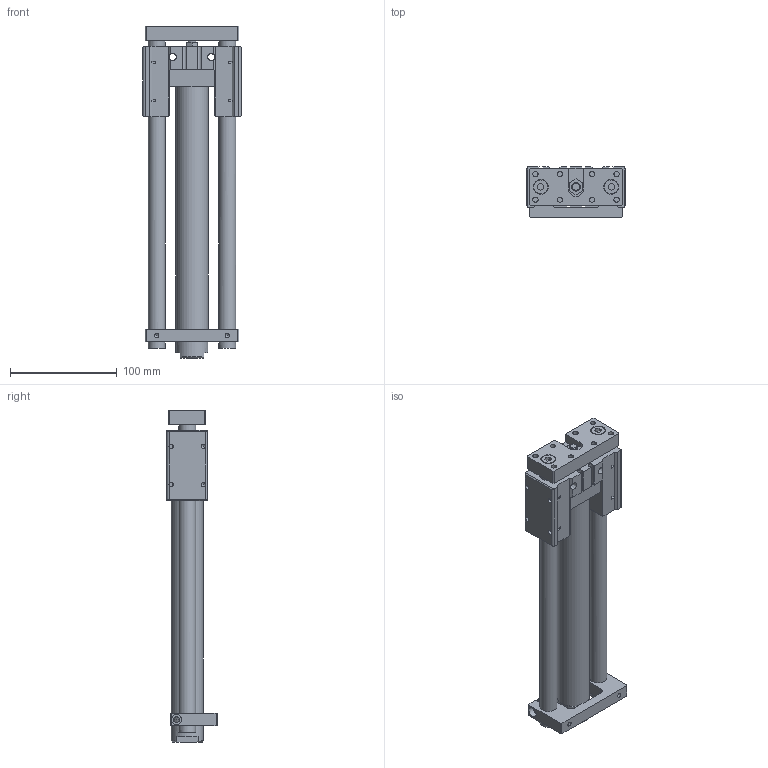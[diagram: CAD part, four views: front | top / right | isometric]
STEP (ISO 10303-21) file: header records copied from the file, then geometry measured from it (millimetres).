
FILE_DESCRIPTION((''),'2;1');
FILE_NAME('I:\3D電子目錄\氣缸\TMB(U)\TMB(U)\TMB(U)25\TMB(U)25x200.stp','2007-10-05T09:32:34',('Administrator'),(''),'Autodesk Inventor 11','Autodesk Inventor 11','');
FILE_SCHEMA(('AUTOMOTIVE_DESIGN { 1 0 10303 214 1 1 1 1 }'));
Length unit declared in the file: millimetre
Products named in the file (1): TMB(U)25
Bounding box: 92 x 47 x 311 mm (x, y, z)
Volume: 489371.7 mm3; surface area: 98764.4 mm2
Topology: 1 solids, 1 shells, 243 faces, 727 edges, 476 vertices
Faces by surface type: plane 149, bspline 49, cylinder 28, cone 17
Full cylindrical faces by diameter (mm): 4.134 x4, 5.5 x1, 8 x2, 9.5 x1, 13 x2, 14 x2, 16 x3, 30 x2
Entity records: 8294 total; most frequent: CARTESIAN_POINT 2323, ORIENTED_EDGE 1234, DIRECTION 1136, EDGE_CURVE 617, VERTEX_POINT 433, VECTOR 408, LINE 408, AXIS2_PLACEMENT_3D 364
